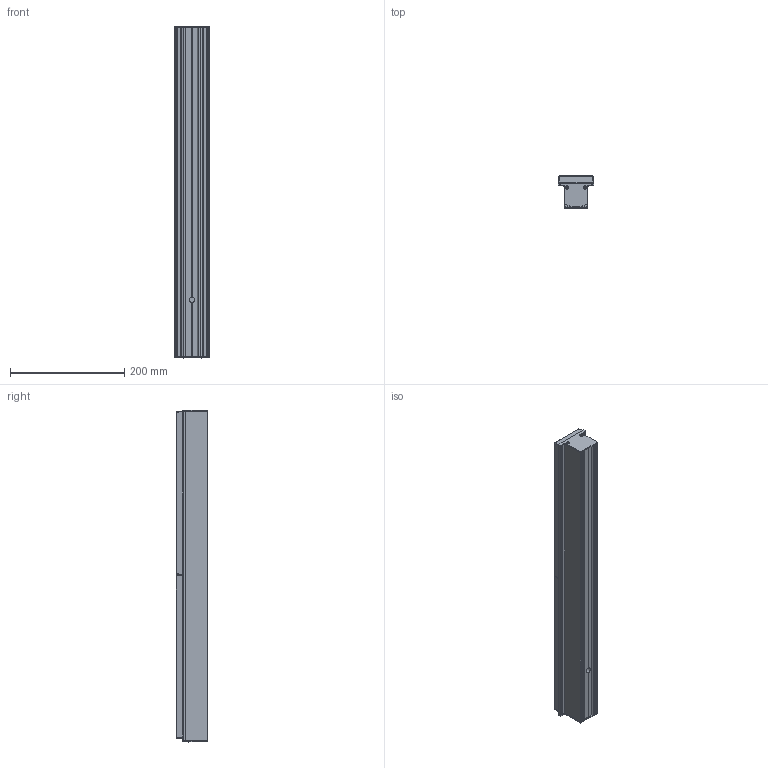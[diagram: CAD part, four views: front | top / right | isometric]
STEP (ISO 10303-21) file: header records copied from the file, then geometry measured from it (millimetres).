
FILE_DESCRIPTION (( 'STEP AP214' ), '1' );
FILE_NAME ('Pixel P 05.STEP', '2017-10-10T10:01:39', ( 'tecnica2' ), ( 'Microsoft' ), 'SwSTEP 2.0', 'SolidWorks 2016', '' );
FILE_SCHEMA (( 'AUTOMOTIVE_DESIGN' ));
Length unit declared in the file: millimetre
Products named in the file (6): Tapa-BIM_definitiva; Perfil DRIVER-BIM_X2 (L:578mm); lente-BIM; Perfil LED-BIM_X2 (L:578); Pixel P 05; TT 65 T 3X6
Assembly tree (10 placements, depth 2):
  Pixel P 05
    Perfil LED-BIM_X2 (L:578)
    lente-BIM  x2
    Perfil DRIVER-BIM_X2 (L:578mm)
    Tapa-BIM_definitiva  x2
    TT 65 T 3X6  x4
Bounding box: 62 x 55.3 x 582 mm (x, y, z)
Volume: 1468647.5 mm3; surface area: 310883 mm2
Topology: 10 solids, 10 shells, 590 faces, 1422 edges, 828 vertices
Faces by surface type: cylinder 214, plane 196, cone 84, bspline 80, torus 8, sphere 8
Entity records: 8937 total; most frequent: CARTESIAN_POINT 1749, DIRECTION 1306, ORIENTED_EDGE 1224, EDGE_CURVE 612, AXIS2_PLACEMENT_3D 476, VERTEX_POINT 380, LINE 354, VECTOR 354
